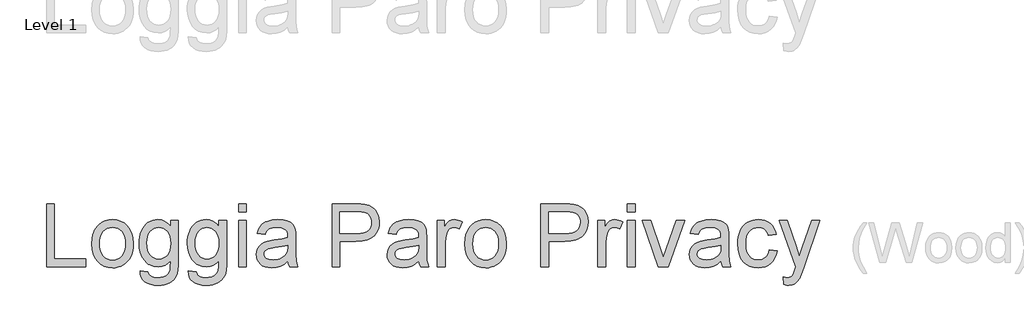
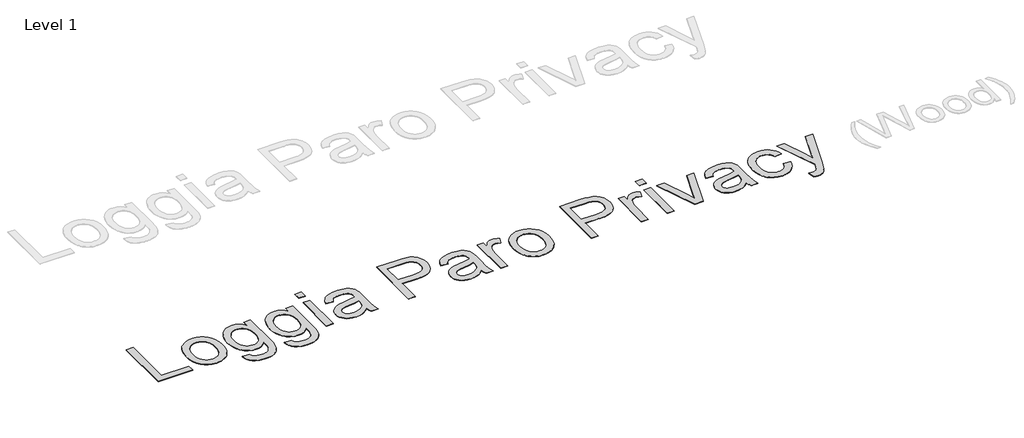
# One storey, part 28 of 69: 1 proxy.
"""IFC4 building model written with IfcOpenShell, lengths in millimetres."""

import ifcopenshell
import ifcopenshell.guid

model = None  # the IFC model being written
_history = None  # IfcOwnerHistory: only IFC2X3 demands one
_inside = {}  # id of a spatial element -> (the spatial element, [elements in it])
_under = {}  # id of a project, library or spatial element -> (it, [spatial elements below it])
_declared = {}  # id of a project -> (the project, [libraries it declares])
_typed = {}  # id of a type object -> (the type object, [elements of that type])
_made_of = {}  # id of a material, layer set ... -> (it, [elements and type objects made of it])


def new_model(schema):
    """Start an empty IFC model of exactly this schema.

    Asked for "IFC4X3", IfcOpenShell would pick the latest addendum, in which some entities
    have other attributes; the version numbers below select the first issue.
    IFC2X3 requires an IfcOwnerHistory on every rooted entity: one is made here for all.
    """
    global model, _history
    if schema == "IFC4X3":
        model = ifcopenshell.file(schema_version=(4, 3, 0, 0))
    else:
        model = ifcopenshell.file(schema=schema)
    _inside.clear()
    _under.clear()
    _declared.clear()
    _typed.clear()
    _made_of.clear()
    _history = None
    if model.schema == "IFC2X3":
        org = make("IfcOrganization", Name="unknown")
        user = make(
            "IfcPersonAndOrganization",
            ThePerson=make("IfcPerson", FamilyName="unknown"),
            TheOrganization=org,
        )
        app = make(
            "IfcApplication",
            ApplicationDeveloper=org,
            Version="unknown",
            ApplicationFullName="unknown",
            ApplicationIdentifier="unknown",
        )
        _history = make(
            "IfcOwnerHistory",
            OwningUser=user,
            OwningApplication=app,
            ChangeAction="ADDED",
            CreationDate=0,
        )
    return model


def make(cls, **values):
    """One entity of the class cls with the attributes given. An attribute that is None is left unset."""
    return model.create_entity(
        cls, **{name: value for name, value in values.items() if value is not None}
    )


def rooted(cls, **values):
    """An entity with a GlobalId (a new one), such as an element, a storey or a relation."""
    return make(cls, GlobalId=ifcopenshell.guid.new(), OwnerHistory=_history, **values)


def si_unit(unit_type, name, prefix=None):
    """IfcSIUnit, for example si_unit("LENGTHUNIT", "METRE", prefix="MILLI")."""
    return make("IfcSIUnit", UnitType=unit_type, Prefix=prefix, Name=name)


def assignment(units):
    """IfcUnitAssignment: the units of a project."""
    return None if units is None else make("IfcUnitAssignment", Units=units)


def point(xyz):
    """IfcCartesianPoint."""
    return None if xyz is None else make("IfcCartesianPoint", Coordinates=xyz)


def direction(xyz):
    """IfcDirection."""
    return None if xyz is None else make("IfcDirection", DirectionRatios=xyz)


def frame(location, z_axis=None, x_axis=None):
    """IfcAxis2Placement3D, a coordinate frame: its origin and axes. An axis left out is left unset."""
    return make(
        "IfcAxis2Placement3D",
        Location=point(location),
        Axis=direction(z_axis),
        RefDirection=direction(x_axis),
    )


def origin():
    """The frame at (0, 0, 0) with its axes left unset."""
    return frame((0.0, 0.0, 0.0))


def origin_with_axes():
    """The frame at (0, 0, 0) with the z axis (0, 0, 1) and the x axis (1, 0, 0) written out."""
    return frame((0.0, 0.0, 0.0), z_axis=(0.0, 0.0, 1.0), x_axis=(1.0, 0.0, 0.0))


def place(relative_to, where):
    """IfcLocalPlacement: puts the frame where relative to a parent placement (None: the world)."""
    return make(
        "IfcLocalPlacement", PlacementRelTo=relative_to, RelativePlacement=where
    )


def context(
    kind, dimensions, precision=None, world=None, true_north=None, identifier=None
):
    """IfcGeometricRepresentationContext, for example the 3D "Model" context."""
    return make(
        "IfcGeometricRepresentationContext",
        ContextIdentifier=identifier,
        ContextType=kind,
        CoordinateSpaceDimension=dimensions,
        Precision=precision,
        WorldCoordinateSystem=world,
        TrueNorth=true_north,
    )


def project(units=None, contexts=None):
    """IfcProject with its units and contexts."""
    return rooted(
        "IfcProject",
        Name="project",
        RepresentationContexts=contexts,
        UnitsInContext=assignment(units),
    )


def spatial(cls, under=None, at=None, **own):
    """A site, building, storey or space (cls), placed at a placement, below another one or the project."""
    s = rooted(cls, ObjectPlacement=at, **own)
    if under is not None:
        _under.setdefault(under.id(), (under, []))[1].append(s)
    return s


def polyline(points):
    """IfcPolyline through the points."""
    return make("IfcPolyline", Points=[point(p) for p in points])


def outline(outer, holes=None, kind="AREA"):
    """IfcArbitraryClosedProfileDef: a profile drawn as a closed curve; with holes, ...WithVoids."""
    if holes is None:
        return make("IfcArbitraryClosedProfileDef", ProfileType=kind, OuterCurve=outer)
    return make(
        "IfcArbitraryProfileDefWithVoids",
        ProfileType=kind,
        OuterCurve=outer,
        InnerCurves=holes,
    )


def extrude(swept, where, along, depth):
    """IfcExtrudedAreaSolid: the profile swept, set in the frame where, extruded along a direction by depth."""
    return make(
        "IfcExtrudedAreaSolid",
        SweptArea=swept,
        Position=where,
        ExtrudedDirection=direction(along),
        Depth=depth,
    )


def shape(context_of_items, identifier, shape_type, items):
    """IfcShapeRepresentation: the items that make up one representation, for example the "Body"."""
    return make(
        "IfcShapeRepresentation",
        ContextOfItems=context_of_items,
        RepresentationIdentifier=identifier,
        RepresentationType=shape_type,
        Items=items,
    )


def made_of(thing, what):
    """Note that an element or type object is made of a material, layer set ...; save() writes the relation."""
    if what is not None:
        _made_of.setdefault(what.id(), (what, []))[1].append(thing)
    return thing


def element(
    cls,
    number,
    at=None,
    inside=None,
    cuts=None,
    type_object=None,
    material=None,
    context=None,
    identifier="Body",
    shape_type=None,
    held_by="IfcProductDefinitionShape",
    body=None,
    shapes=None,
    **own,
):
    """One element of the class cls, such as IfcWall. Its Tag is "e" and its number.

    at: its placement. inside: the storey or other place that contains it. cuts: it is an
    opening in that element (IfcRelVoidsElement). A single representation is given by context,
    identifier, shape_type and body (its items); several are given by shapes. held_by: the class
    of the entity that holds the representations. save() writes the other relations.
    """
    e = rooted(cls, Tag="e%d" % number, ObjectPlacement=at, **own)
    if body is not None:
        shapes = [shape(context, identifier, shape_type, body)]
    if shapes is not None:
        e.Representation = make(held_by, Representations=shapes)
    if inside is not None:
        _inside.setdefault(inside.id(), (inside, []))[1].append(e)
    if cuts is not None:
        rooted(
            "IfcRelVoidsElement", RelatingBuildingElement=cuts, RelatedOpeningElement=e
        )
    if type_object is not None:
        _typed.setdefault(type_object.id(), (type_object, []))[1].append(e)
    return made_of(e, material)


def aggregate(whole, parts):
    """IfcRelAggregates: a whole, such as a stair, and the parts it consists of."""
    return rooted("IfcRelAggregates", RelatingObject=whole, RelatedObjects=parts)


def save(model, path):
    """Write the relations noted so far, then the file.

    IfcRelAggregates (storeys below a building ...), IfcRelContainedInSpatialStructure (elements
    in a storey), IfcRelDefinesByType, IfcRelAssociatesMaterial and IfcRelDeclares: one each for
    every whole, place, type object, material and project.
    """
    for whole, parts in _under.values():
        aggregate(whole, parts)
    for where, things in _inside.values():
        rooted(
            "IfcRelContainedInSpatialStructure",
            RelatedElements=things,
            RelatingStructure=where,
        )
    for kind, things in _typed.values():
        rooted("IfcRelDefinesByType", RelatedObjects=things, RelatingType=kind)
    for what, things in _made_of.values():
        rooted("IfcRelAssociatesMaterial", RelatedObjects=things, RelatingMaterial=what)
    for by, libraries in _declared.values():
        rooted("IfcRelDeclares", RelatingContext=by, RelatedDefinitions=libraries)
    model.write(path)


model = new_model("IFC4")

# Units and contexts
model_context = context("Model", 3, world=origin())
ifc_project = project(units=[si_unit("LENGTHUNIT", "METRE", prefix="MILLI")], contexts=[model_context])

# Site, building, storey
site = spatial("IfcSite", under=ifc_project)
building = spatial("IfcBuilding", under=site)
storey = spatial("IfcBuildingStorey", under=building, Name="Level 1", Elevation=0.0)

# Proxy
placement = place(None, origin())
element("IfcBuildingElementProxy", 1, Name="800mm Arial", ObjectType="800mm Arial", at=placement, inside=storey, context=model_context, shape_type="SweptSolid", body=[
    extrude(outline(polyline([(193965.6331768, -27327.2636858), (193965.6331768, -26527.8749875), (194065.556764, -26527.8749875), (194065.556764, -27227.3400985), (194465.2511132, -27227.3400985), (194465.2511132, -27327.2636858), (193965.6331768, -27327.2636858)])), origin_with_axes(), (0.0, 0.0, 1.0), 5.0),
    extrude(outline(polyline([(194540.1938037, -27033.7381481), (194545.5973864, -26957.709862), (194552.3518647, -26923.6386267), (194561.8081343, -26892.1959964), (194573.9661953, -26863.3819712), (194588.8260477, -26837.1965512), (194606.3876913, -26813.6397363), (194626.6511263, -26792.7115264), (194664.7323567, -26764.2786795), (194706.7656431, -26743.9695031), (194752.7509853, -26731.7839973), (194802.6883836, -26727.722162), (194857.8159047, -26732.6683308), (194907.6618201, -26747.5068372), (194952.22613, -26772.2376811), (194991.5088342, -26806.8608625), (195023.5704979, -26850.205402), (195046.4716863, -26901.10032), (195060.2123993, -26959.5456164), (195064.792637, -27025.5412914), (195062.7678182, -27079.0282213), (195056.6933618, -27126.4894857), (195046.5692679, -27167.9250846), (195032.3955364, -27203.335018), (195014.349034, -27233.9207596), (194992.6066275, -27260.8837832), (194967.1683168, -27284.2240889), (194938.0341019, -27303.9416767), (194906.3383693, -27319.6096268), (194873.2155054, -27330.8010198), (194838.6655101, -27337.5158556), (194802.6883836, -27339.7541342), (194746.7558141, -27334.826262), (194696.4463859, -27320.0426453), (194651.760099, -27295.4032842), (194612.6969535, -27260.9081786), (194580.9768254, -27217.1428184), (194558.3195911, -27164.6926932), (194544.7252505, -27103.5578031), (194540.1938037, -27033.7381481)]), holes=[polyline([(194640.117391, -27033.5429849), (194643.0082467, -27082.0105598), (194651.6808139, -27123.9767588), (194666.1350926, -27159.4415818), (194686.3710828, -27188.4050288), (194710.9860485, -27210.903693), (194738.5772539, -27226.9741674), (194769.1446989, -27236.616452), (194802.6883836, -27239.8305469), (194836.0613004, -27236.5981555), (194866.5067684, -27226.9009812), (194894.0247876, -27210.739024), (194918.6153579, -27188.112284), (194938.8513481, -27158.8621909), (194953.3056267, -27122.8301747), (194961.9781939, -27080.0162353), (194964.8690497, -27030.4203728), (194961.9598974, -26983.4897084), (194953.2324405, -26942.6213028), (194938.6866791, -26907.8151558), (194918.322613, -26879.0712674), (194893.6405599, -26856.5726032), (194866.1408373, -26840.5021288), (194835.8234452, -26830.8598442), (194802.6883836, -26827.6457493), (194769.1446989, -26830.8476465), (194738.5772539, -26840.453338), (194710.9860485, -26856.4628239), (194686.3710828, -26878.8761041), (194666.1350926, -26907.7541672), (194651.6808139, -26943.1580017), (194643.0082467, -26985.0876076), (194640.117391, -27033.5429849)])]), origin_with_axes(), (0.0, 0.0, 1.0), 5.0),
    extrude(outline(polyline([(195152.2257759, -27377.2254794), (195252.1493631, -27389.7159279), (195256.3697686, -27406.5487587), (195263.1760871, -27420.9420489), (195272.5683189, -27432.8957983), (195284.5464637, -27442.4100071), (195303.9286146, -27452.1437745), (195326.5553547, -27459.0964655), (195381.5426022, -27464.6586183), (195412.7443278, -27463.0851146), (195440.1891607, -27458.3646033), (195463.877101, -27450.4970845), (195483.8081485, -27439.4825582), (195500.3970253, -27425.625967), (195514.0584533, -27409.2322535), (195524.7924324, -27390.3014176), (195532.5989626, -27368.8334594), (195538.014743, -27325.8487522), (195539.4296766, -27252.3209953), (195506.1787368, -27285.1084224), (195469.0733227, -27308.5280132), (195428.1134342, -27322.5797676), (195383.2990715, -27327.2636858), (195328.5130861, -27321.8113123), (195280.2772675, -27305.4541919), (195258.6156707, -27293.1863516), (195238.5916157, -27278.1923245), (195203.4561307, -27240.0257102), (195175.5782793, -27194.2355311), (195155.6655283, -27144.1029696), (195143.7178776, -27089.6280257), (195139.7353274, -27030.8106993), (195141.522291, -26989.6617464), (195146.8831817, -26950.1350881), (195155.8179995, -26912.2307244), (195168.3267445, -26875.9486553), (195184.2203522, -26842.4964534), (195203.3097582, -26813.0816913), (195225.5949626, -26787.7043691), (195251.0759652, -26766.3644868), (195279.3441432, -26749.4584697), (195309.9908733, -26737.3827432), (195343.0161556, -26730.1373073), (195378.4199901, -26727.722162), (195425.1493923, -26733.1867332), (195467.5608074, -26749.5804468), (195505.6542356, -26776.9033027), (195539.4296766, -26815.1553009), (195539.4296766, -26740.2126104), (195639.3532639, -26740.2126104), (195639.3532639, -27247.0515874), (195637.6455854, -27310.5589308), (195632.5225499, -27364.076355), (195623.9841575, -27407.6038601), (195612.030408, -27441.1414459), (195596.3746555, -27468.1898535), (195576.730254, -27492.2498237), (195553.0972034, -27513.3213565), (195525.4755038, -27531.404452), (195494.1457023, -27545.9197192), (195459.3883461, -27556.2877672), (195421.2034352, -27562.508596), (195379.5909696, -27564.5822056), (195330.6354865, -27561.6608556), (195286.6200733, -27552.8968056), (195247.5447301, -27538.2900557), (195213.4094567, -27517.8406057), (195185.8365479, -27491.5240603), (195166.4482982, -27459.3160242), (195155.2447075, -27421.2164972), (195152.2257759, -27377.2254794)]), holes=[polyline([(195239.6589147, -27023.9799853), (195242.324113, -27073.3867834), (195250.3197076, -27115.6335296), (195263.6456987, -27150.7202238), (195282.3020863, -27178.646866), (195304.983716, -27199.9501552), (195330.3854336, -27215.1667904), (195358.5072391, -27224.2967715), (195389.3491324, -27227.3400985), (195419.8860832, -27224.315068), (195447.8737139, -27215.2399766), (195473.3120246, -27200.1148242), (195496.2010153, -27178.9396109), (195515.1135546, -27151.287417), (195528.6225113, -27116.7313229), (195536.7278853, -27075.2713286), (195539.4296766, -27026.9074341), (195536.6486002, -26980.5622596), (195528.305371, -26940.2793437), (195514.399989, -26906.0586865), (195494.9324541, -26877.9002879), (195471.5494565, -26855.9139273), (195445.897686, -26840.209384), (195417.9771426, -26830.786658), (195387.7878264, -26827.6457493), (195358.1047148, -26830.7378672), (195330.7269693, -26840.0142207), (195305.6545897, -26855.4748099), (195282.887576, -26877.1196348), (195263.9750367, -26904.8511138), (195250.4660801, -26938.5716652), (195242.3607061, -26978.281289), (195239.6589147, -27023.9799853)])]), origin_with_axes(), (0.0, 0.0, 1.0), 5.0),
    extrude(outline(polyline([(195764.257748, -27377.2254794), (195864.1813353, -27389.7159279), (195868.4017407, -27406.5487587), (195875.2080593, -27420.9420489), (195884.600291, -27432.8957983), (195896.5784359, -27442.4100071), (195915.9605868, -27452.1437745), (195938.5873268, -27459.0964655), (195993.5745743, -27464.6586183), (196024.7763, -27463.0851146), (196052.2211329, -27458.3646033), (196075.9090731, -27450.4970845), (196095.8401207, -27439.4825582), (196112.4289975, -27425.625967), (196126.0904254, -27409.2322535), (196136.8244046, -27390.3014176), (196144.6309348, -27368.8334594), (196150.0467152, -27325.8487522), (196151.4616488, -27252.3209953), (196118.210709, -27285.1084224), (196081.1052948, -27308.5280132), (196040.1454064, -27322.5797676), (195995.3310436, -27327.2636858), (195940.5450582, -27321.8113123), (195892.3092397, -27305.4541919), (195870.6476429, -27293.1863516), (195850.6235878, -27278.1923245), (195815.4881028, -27240.0257102), (195787.6102514, -27194.2355311), (195767.6975004, -27144.1029696), (195755.7498498, -27089.6280257), (195751.7672996, -27030.8106993), (195753.5542632, -26989.6617464), (195758.9151539, -26950.1350881), (195767.8499717, -26912.2307244), (195780.3587167, -26875.9486553), (195796.2523244, -26842.4964534), (195815.3417304, -26813.0816913), (195837.6269347, -26787.7043691), (195863.1079374, -26766.3644868), (195891.3761153, -26749.4584697), (195922.0228454, -26737.3827432), (195955.0481277, -26730.1373073), (195990.4519622, -26727.722162), (196037.1813644, -26733.1867332), (196079.5927796, -26749.5804468), (196117.6862077, -26776.9033027), (196151.4616488, -26815.1553009), (196151.4616488, -26740.2126104), (196251.3852361, -26740.2126104), (196251.3852361, -27247.0515874), (196249.6775576, -27310.5589308), (196244.5545221, -27364.076355), (196236.0161296, -27407.6038601), (196224.0623802, -27441.1414459), (196208.4066277, -27468.1898535), (196188.7622262, -27492.2498237), (196165.1291756, -27513.3213565), (196137.5074759, -27531.404452), (196106.1776744, -27545.9197192), (196071.4203182, -27556.2877672), (196033.2354073, -27562.508596), (195991.6229418, -27564.5822056), (195942.6674587, -27561.6608556), (195898.6520455, -27552.8968056), (195859.5767022, -27538.2900557), (195825.4414289, -27517.8406057), (195797.8685201, -27491.5240603), (195778.4802703, -27459.3160242), (195767.2766796, -27421.2164972), (195764.257748, -27377.2254794)]), holes=[polyline([(195851.6908869, -27023.9799853), (195854.3560851, -27073.3867834), (195862.3516798, -27115.6335296), (195875.6776709, -27150.7202238), (195894.3340584, -27178.646866), (195917.0156881, -27199.9501552), (195942.4174057, -27215.1667904), (195970.5392112, -27224.2967715), (196001.3811046, -27227.3400985), (196031.9180554, -27224.315068), (196059.9056861, -27215.2399766), (196085.3439968, -27200.1148242), (196108.2329875, -27178.9396109), (196127.1455268, -27151.287417), (196140.6544835, -27116.7313229), (196148.7598575, -27075.2713286), (196151.4616488, -27026.9074341), (196148.6805724, -26980.5622596), (196140.3373432, -26940.2793437), (196126.4319611, -26906.0586865), (196106.9644263, -26877.9002879), (196083.5814287, -26855.9139273), (196057.9296581, -26840.209384), (196030.0091148, -26830.786658), (195999.8197985, -26827.6457493), (195970.136687, -26830.7378672), (195942.7589414, -26840.0142207), (195917.6865618, -26855.4748099), (195894.9195482, -26877.1196348), (195876.0070089, -26904.8511138), (195862.4980522, -26938.5716652), (195854.3926782, -26978.281289), (195851.6908869, -27023.9799853)])]), origin_with_axes(), (0.0, 0.0, 1.0), 5.0),
    extrude(outline(polyline([(196401.270617, -26627.7985747), (196401.270617, -26527.8749875), (196501.1942043, -26527.8749875), (196501.1942043, -26627.7985747), (196401.270617, -26627.7985747)])), origin_with_axes(), (0.0, 0.0, 1.0), 5.0),
    extrude(outline(polyline([(196401.270617, -27327.2636858), (196401.270617, -26740.2126104), (196501.1942043, -26740.2126104), (196501.1942043, -27327.2636858), (196401.270617, -27327.2636858)])), origin_with_axes(), (0.0, 0.0, 1.0), 5.0),
    extrude(outline(polyline([(197025.7930376, -27252.3209953), (196978.051226, -27293.2564884), (196953.6497201, -27308.4182338), (196928.8944808, -27320.0426453), (196877.2006132, -27334.826262), (196821.8474346, -27339.7541342), (196777.356311, -27336.7900922), (196738.3419563, -27327.8979664), (196704.8043704, -27313.0777566), (196676.7435535, -27292.3294629), (196654.586425, -27266.9704373), (196638.7599047, -27238.3180317), (196629.2639925, -27206.3722461), (196626.0986884, -27171.1330806), (196630.8801882, -27129.7096795), (196645.2246876, -27092.0919618), (196667.3513218, -27059.8900245), (196695.4792261, -27034.7139644), (196728.5350026, -27015.6855469), (196765.4452535, -27001.9265373), (196851.9025761, -26986.8989666), (196954.0705409, -26971.0907428), (197025.2075478, -26952.5502334), (197025.7930376, -26930.3016222), (197024.0731614, -26906.076983), (197018.9135328, -26885.7068181), (197010.3141518, -26869.1911275), (196998.2750184, -26856.5299113), (196977.4657362, -26843.8930904), (196952.1189083, -26834.8667898), (196922.2345347, -26829.4510095), (196887.8126153, -26827.6457493), (196828.2878221, -26832.4516445), (196805.2585578, -26838.4590135), (196786.7180485, -26846.8693301), (196771.4831168, -26858.3412703), (196758.3705855, -26873.53351), (196747.3804546, -26892.4460493), (196738.5127241, -26915.0788882), (196638.5891368, -26902.5884398), (196655.9342713, -26847.942728), (196667.8087356, -26825.0110454), (196681.8177981, -26805.0068116), (196698.5652451, -26787.5275024), (196718.6548628, -26772.1705937), (196742.0866513, -26758.9360854), (196768.8606105, -26747.8239775), (196830.2638501, -26732.7476159), (196900.6933902, -26727.722162), (196968.2442724, -26732.1621261), (197021.7921908, -26745.4820184), (197062.1665895, -26765.5106476), (197090.1969122, -26790.0768225), (197108.7862124, -26820.4491042), (197120.8375435, -26857.8960541), (197124.4968545, -26892.4399505), (197125.7166249, -26945.329193), (197125.7166249, -27069.6481873), (197126.9851861, -27177.9393992), (197130.7908696, -27243.2459039), (197138.3046549, -27286.1574249), (197150.6975217, -27327.2636858), (197050.7739344, -27327.2636858), (197034.7705474, -27292.5246261), (197025.7930376, -27252.3209953)]), holes=[polyline([(197025.7930376, -27052.4738207), (196958.6568774, -27069.1114883), (196864.5881878, -27083.114452), (196812.7479478, -27090.7746098), (196778.6187733, -27099.3130023), (196756.2481851, -27110.3885171), (196739.6837037, -27125.6600419), (196729.4376327, -27143.9565972), (196726.0222757, -27164.1072034), (196727.8824255, -27179.63488), (196733.4628749, -27193.8208092), (196742.7636238, -27206.664991), (196755.7846723, -27218.1674254), (196772.4040434, -27227.6450411), (196792.4997599, -27234.4147665), (196843.1202296, -27239.8305469), (196896.7901251, -27233.8536722), (196921.2831138, -27226.3825788), (196944.2147964, -27215.923048), (196982.6619579, -27189.5028222), (197009.3993241, -27158.0571425), (197021.2554919, -27125.6600419), (197025.2075478, -27080.7724929), (197025.7930376, -27052.4738207)])]), origin_with_axes(), (0.0, 0.0, 1.0), 5.0),
    extrude(outline(polyline([(197587.8632161, -27327.2636858), (197587.8632161, -26527.8749875), (197884.1210394, -26527.8749875), (197953.1112505, -26529.7778292), (198003.5609523, -26535.4863545), (198056.8161259, -26549.7088768), (198100.6546724, -26572.8601181), (198119.2622691, -26588.046259), (198135.9548264, -26605.9890808), (198163.5948226, -26650.1447676), (198174.0116614, -26675.5830783), (198181.4522606, -26702.2289617), (198187.4047399, -26759.1434463), (198183.3855966, -26808.2148076), (198171.3281666, -26853.3585084), (198151.2324501, -26894.5745486), (198123.0984469, -26931.8629283), (198105.4041532, -26948.4213108), (198084.4744187, -26962.771909), (198060.3092433, -26974.9147229), (198032.908627, -26984.8497524), (197968.4010719, -26998.0964584), (197890.9517534, -27002.5120271), (197687.7868034, -27002.5120271), (197687.7868034, -27327.2636858), (197587.8632161, -27327.2636858)]), holes=[polyline([(197687.7868034, -26902.5884398), (197896.806651, -26902.5884398), (197944.8656029, -26900.2952715), (197985.4107695, -26893.4157667), (198018.4421506, -26881.9499254), (198043.9597464, -26865.8977476), (198063.0003616, -26845.6861528), (198076.600801, -26821.7420608), (198084.7610647, -26794.0654715), (198087.4811526, -26762.6563849), (198085.8771546, -26739.3343758), (198081.0651605, -26717.768836), (198073.0451705, -26697.9597654), (198061.8171844, -26679.9071642), (198047.9788897, -26664.1965221), (198032.127974, -26651.4133288), (198014.2644372, -26641.5575843), (197994.3882793, -26634.6292887), (197955.8435361, -26629.5062532), (197894.464692, -26627.7985747), (197687.7868034, -26627.7985747), (197687.7868034, -26902.5884398)])]), origin_with_axes(), (0.0, 0.0, 1.0), 5.0),
    extrude(outline(polyline([(198687.0226763, -27252.3209953), (198639.2808647, -27293.2564884), (198614.8793588, -27308.4182338), (198590.1241195, -27320.0426453), (198538.430252, -27334.826262), (198483.0770734, -27339.7541342), (198438.5859498, -27336.7900922), (198399.571595, -27327.8979664), (198366.0340092, -27313.0777566), (198337.9731922, -27292.3294629), (198315.8160638, -27266.9704373), (198299.9895434, -27238.3180317), (198290.4936312, -27206.3722461), (198287.3283272, -27171.1330806), (198292.1098269, -27129.7096795), (198306.4543263, -27092.0919618), (198328.5809605, -27059.8900245), (198356.7088648, -27034.7139644), (198389.7646414, -27015.6855469), (198426.6748923, -27001.9265373), (198513.1322149, -26986.8989666), (198615.3001796, -26971.0907428), (198686.4371866, -26952.5502334), (198687.0226763, -26930.3016222), (198685.3028001, -26906.076983), (198680.1431715, -26885.7068181), (198671.5437906, -26869.1911275), (198659.5046572, -26856.5299113), (198638.695375, -26843.8930904), (198613.348547, -26834.8667898), (198583.4641734, -26829.4510095), (198549.042254, -26827.6457493), (198489.5174608, -26832.4516445), (198466.4881966, -26838.4590135), (198447.9476872, -26846.8693301), (198432.7127555, -26858.3412703), (198419.6002242, -26873.53351), (198408.6100933, -26892.4460493), (198399.7423629, -26915.0788882), (198299.8187756, -26902.5884398), (198317.16391, -26847.942728), (198329.0383744, -26825.0110454), (198343.0474369, -26805.0068116), (198359.7948838, -26787.5275024), (198379.8845015, -26772.1705937), (198403.31629, -26758.9360854), (198430.0902492, -26747.8239775), (198491.4934888, -26732.7476159), (198561.923029, -26727.722162), (198629.4739111, -26732.1621261), (198683.0218296, -26745.4820184), (198723.3962283, -26765.5106476), (198751.426551, -26790.0768225), (198770.0158511, -26820.4491042), (198782.0671822, -26857.8960541), (198785.7264933, -26892.4399505), (198786.9462636, -26945.329193), (198786.9462636, -27069.6481873), (198788.2148248, -27177.9393992), (198792.0205083, -27243.2459039), (198799.5342937, -27286.1574249), (198811.9271605, -27327.2636858), (198712.0035732, -27327.2636858), (198696.0001861, -27292.5246261), (198687.0226763, -27252.3209953)]), holes=[polyline([(198687.0226763, -27052.4738207), (198619.8865161, -27069.1114883), (198525.8178265, -27083.114452), (198473.9775865, -27090.7746098), (198439.8484121, -27099.3130023), (198417.4778238, -27110.3885171), (198400.9133424, -27125.6600419), (198390.6672714, -27143.9565972), (198387.2519145, -27164.1072034), (198389.1120642, -27179.63488), (198394.6925136, -27193.8208092), (198403.9932626, -27206.664991), (198417.0143111, -27218.1674254), (198433.6336821, -27227.6450411), (198453.7293987, -27234.4147665), (198504.3498683, -27239.8305469), (198558.0197638, -27233.8536722), (198582.5127525, -27226.3825788), (198605.4444351, -27215.923048), (198643.8915967, -27189.5028222), (198670.6289628, -27158.0571425), (198682.4851306, -27125.6600419), (198686.4371866, -27080.7724929), (198687.0226763, -27052.4738207)])]), origin_with_axes(), (0.0, 0.0, 1.0), 5.0),
    extrude(outline(polyline([(198924.3411962, -27327.2636858), (198924.3411962, -26740.2126104), (199011.774335, -26740.2126104), (199011.774335, -26827.0602596), (199044.073854, -26776.7081394), (199059.2721926, -26759.2898188), (199073.8362506, -26747.0433244), (199103.6962288, -26732.5524526), (199136.2884926, -26727.722162), (199161.0742262, -26729.6493992), (199186.055123, -26735.4311107), (199211.2311831, -26745.0672965), (199236.6024064, -26758.5579566), (199203.2294896, -26848.1378913), (199168.1001034, -26832.7687848), (199132.9707173, -26827.6457493), (199103.1351345, -26832.5736216), (199076.4709545, -26847.3572382), (199054.9298101, -26870.8744106), (199040.4633337, -26902.00295), (199028.314421, -26957.8196414), (199024.2647835, -27018.7105774), (199024.2647835, -27327.2636858), (198924.3411962, -27327.2636858)])), origin_with_axes(), (0.0, 0.0, 1.0), 5.0),
    extrude(outline(polyline([(199274.0737517, -27033.7381481), (199279.4773343, -26957.709862), (199286.2318127, -26923.6386267), (199295.6880823, -26892.1959964), (199307.8461433, -26863.3819712), (199322.7059956, -26837.1965512), (199340.2676393, -26813.6397363), (199360.5310743, -26792.7115264), (199398.6123047, -26764.2786795), (199440.645591, -26743.9695031), (199486.6309333, -26731.7839973), (199536.5683316, -26727.722162), (199591.6958527, -26732.6683308), (199641.5417681, -26747.5068372), (199686.106078, -26772.2376811), (199725.3887822, -26806.8608625), (199757.4504459, -26850.205402), (199780.3516343, -26901.10032), (199794.0923473, -26959.5456164), (199798.672585, -27025.5412914), (199796.6477662, -27079.0282213), (199790.5733098, -27126.4894857), (199780.4492159, -27167.9250846), (199766.2754844, -27203.335018), (199748.228982, -27233.9207596), (199726.4865755, -27260.8837832), (199701.0482648, -27284.2240889), (199671.9140499, -27303.9416767), (199640.2183173, -27319.6096268), (199607.0954534, -27330.8010198), (199572.5454581, -27337.5158556), (199536.5683316, -27339.7541342), (199480.6357621, -27334.826262), (199430.3263339, -27320.0426453), (199385.640047, -27295.4032842), (199346.5769014, -27260.9081786), (199314.8567734, -27217.1428184), (199292.1995391, -27164.6926932), (199278.6051985, -27103.5578031), (199274.0737517, -27033.7381481)]), holes=[polyline([(199373.997339, -27033.5429849), (199376.8881947, -27082.0105598), (199385.5607619, -27123.9767588), (199400.0150406, -27159.4415818), (199420.2510307, -27188.4050288), (199444.8659965, -27210.903693), (199472.4572018, -27226.9741674), (199503.0246469, -27236.616452), (199536.5683316, -27239.8305469), (199569.9412484, -27236.5981555), (199600.3867164, -27226.9009812), (199627.9047356, -27210.739024), (199652.4953059, -27188.112284), (199672.7312961, -27158.8621909), (199687.1855747, -27122.8301747), (199695.8581419, -27080.0162353), (199698.7489977, -27030.4203728), (199695.8398454, -26983.4897084), (199687.1123885, -26942.6213028), (199672.5666271, -26907.8151558), (199652.202561, -26879.0712674), (199627.5205079, -26856.5726032), (199600.0207853, -26840.5021288), (199569.7033932, -26830.8598442), (199536.5683316, -26827.6457493), (199503.0246469, -26830.8476465), (199472.4572018, -26840.453338), (199444.8659965, -26856.4628239), (199420.2510307, -26878.8761041), (199400.0150406, -26907.7541672), (199385.5607619, -26943.1580017), (199376.8881947, -26985.0876076), (199373.997339, -27033.5429849)])]), origin_with_axes(), (0.0, 0.0, 1.0), 5.0),
    extrude(outline(polyline([(200235.8382794, -27327.2636858), (200235.8382794, -26527.8749875), (200532.0961026, -26527.8749875), (200601.0863138, -26529.7778292), (200651.5360156, -26535.4863545), (200704.7911892, -26549.7088768), (200748.6297356, -26572.8601181), (200767.2373324, -26588.046259), (200783.9298897, -26605.9890808), (200811.5698858, -26650.1447676), (200821.9867247, -26675.5830783), (200829.4273238, -26702.2289617), (200835.3798031, -26759.1434463), (200831.3606598, -26808.2148076), (200819.3032299, -26853.3585084), (200799.2075133, -26894.5745486), (200771.0735101, -26931.8629283), (200753.3792165, -26948.4213108), (200732.4494819, -26962.771909), (200708.2843065, -26974.9147229), (200680.8836903, -26984.8497524), (200616.3761352, -26998.0964584), (200538.9268166, -27002.5120271), (200335.7618667, -27002.5120271), (200335.7618667, -27327.2636858), (200235.8382794, -27327.2636858)]), holes=[polyline([(200335.7618667, -26902.5884398), (200544.7817143, -26902.5884398), (200592.8406662, -26900.2952715), (200633.3858327, -26893.4157667), (200666.4172139, -26881.9499254), (200691.9348097, -26865.8977476), (200710.9754249, -26845.6861528), (200724.5758643, -26821.7420608), (200732.736128, -26794.0654715), (200735.4562158, -26762.6563849), (200733.8522178, -26739.3343758), (200729.0402238, -26717.768836), (200721.0202337, -26697.9597654), (200709.7922476, -26679.9071642), (200695.953953, -26664.1965221), (200680.1030372, -26651.4133288), (200662.2395004, -26641.5575843), (200642.3633425, -26634.6292887), (200603.8185994, -26629.5062532), (200542.4397552, -26627.7985747), (200335.7618667, -26627.7985747), (200335.7618667, -26902.5884398)])]), origin_with_axes(), (0.0, 0.0, 1.0), 5.0),
    extrude(outline(polyline([(200960.2842872, -27327.2636858), (200960.2842872, -26740.2126104), (201047.7174261, -26740.2126104), (201047.7174261, -26827.0602596), (201080.0169451, -26776.7081394), (201095.2152837, -26759.2898188), (201109.7793417, -26747.0433244), (201139.6393199, -26732.5524526), (201172.2315837, -26727.722162), (201197.0173173, -26729.6493992), (201221.9982141, -26735.4311107), (201247.1742742, -26745.0672965), (201272.5454975, -26758.5579566), (201239.1725807, -26848.1378913), (201204.0431945, -26832.7687848), (201168.9138084, -26827.6457493), (201139.0782255, -26832.5736216), (201112.4140456, -26847.3572382), (201090.8729012, -26870.8744106), (201076.4064248, -26902.00295), (201064.2575121, -26957.8196414), (201060.2078745, -27018.7105774), (201060.2078745, -27327.2636858), (200960.2842872, -27327.2636858)])), origin_with_axes(), (0.0, 0.0, 1.0), 5.0),
    extrude(outline(polyline([(201334.9977396, -27327.2636858), (201334.9977396, -26740.2126104), (201434.9213269, -26740.2126104), (201434.9213269, -27327.2636858), (201334.9977396, -27327.2636858)])), origin_with_axes(), (0.0, 0.0, 1.0), 5.0),
    extrude(outline(polyline([(201334.9977396, -26627.7985747), (201334.9977396, -26527.8749875), (201434.9213269, -26527.8749875), (201434.9213269, -26627.7985747), (201334.9977396, -26627.7985747)])), origin_with_axes(), (0.0, 0.0, 1.0), 5.0),
    extrude(outline(polyline([(201728.8371911, -27327.2636858), (201522.3544658, -26740.2126104), (201628.1329508, -26740.2126104), (201753.2325981, -27091.8967985), (201790.8991066, -27210.1657319), (201827.7849621, -27098.5323493), (201953.6652625, -26740.2126104), (202059.4437475, -26740.2126104), (201855.4981445, -27327.2636858), (201728.8371911, -27327.2636858)])), origin_with_axes(), (0.0, 0.0, 1.0), 5.0),
    extrude(outline(polyline([(202521.5903387, -27252.3209953), (202473.8485271, -27293.2564884), (202449.4470212, -27308.4182338), (202424.6917819, -27320.0426453), (202372.9979143, -27334.826262), (202317.6447357, -27339.7541342), (202273.1536121, -27336.7900922), (202234.1392574, -27327.8979664), (202200.6016715, -27313.0777566), (202172.5408546, -27292.3294629), (202150.3837261, -27266.9704373), (202134.5572058, -27238.3180317), (202125.0612936, -27206.3722461), (202121.8959895, -27171.1330806), (202126.6774893, -27129.7096795), (202141.0219887, -27092.0919618), (202163.1486229, -27059.8900245), (202191.2765272, -27034.7139644), (202224.3323037, -27015.6855469), (202261.2425546, -27001.9265373), (202347.6998772, -26986.8989666), (202449.867842, -26971.0907428), (202521.0048489, -26952.5502334), (202521.5903387, -26930.3016222), (202519.8704625, -26906.076983), (202514.7108339, -26885.7068181), (202506.1114529, -26869.1911275), (202494.0723195, -26856.5299113), (202473.2630373, -26843.8930904), (202447.9162094, -26834.8667898), (202418.0318358, -26829.4510095), (202383.6099164, -26827.6457493), (202324.0851232, -26832.4516445), (202301.0558589, -26838.4590135), (202282.5153496, -26846.8693301), (202267.2804179, -26858.3412703), (202254.1678866, -26873.53351), (202243.1777557, -26892.4460493), (202234.3100252, -26915.0788882), (202134.3864379, -26902.5884398), (202151.7315724, -26847.942728), (202163.6060367, -26825.0110454), (202177.6150992, -26805.0068116), (202194.3625462, -26787.5275024), (202214.4521639, -26772.1705937), (202237.8839524, -26758.9360854), (202264.6579116, -26747.8239775), (202326.0611512, -26732.7476159), (202396.4906913, -26727.722162), (202464.0415735, -26732.1621261), (202517.5894919, -26745.4820184), (202557.9638906, -26765.5106476), (202585.9942133, -26790.0768225), (202604.5835135, -26820.4491042), (202616.6348446, -26857.8960541), (202620.2941556, -26892.4399505), (202621.513926, -26945.329193), (202621.513926, -27069.6481873), (202622.7824872, -27177.9393992), (202626.5881707, -27243.2459039), (202634.101956, -27286.1574249), (202646.4948228, -27327.2636858), (202546.5712355, -27327.2636858), (202530.5678485, -27292.5246261), (202521.5903387, -27252.3209953)]), holes=[polyline([(202521.5903387, -27052.4738207), (202454.4541785, -27069.1114883), (202360.3854889, -27083.114452), (202308.5452489, -27090.7746098), (202274.4160744, -27099.3130023), (202252.0454862, -27110.3885171), (202235.4810048, -27125.6600419), (202225.2349338, -27143.9565972), (202221.8195768, -27164.1072034), (202223.6797266, -27179.63488), (202229.260176, -27193.8208092), (202238.5609249, -27206.664991), (202251.5819734, -27218.1674254), (202268.2013445, -27227.6450411), (202288.297061, -27234.4147665), (202338.9175307, -27239.8305469), (202392.5874262, -27233.8536722), (202417.0804149, -27226.3825788), (202440.0120975, -27215.923048), (202478.459259, -27189.5028222), (202505.1966252, -27158.0571425), (202517.052793, -27125.6600419), (202521.0048489, -27080.7724929), (202521.5903387, -27052.4738207)])]), origin_with_axes(), (0.0, 0.0, 1.0), 5.0),
    extrude(outline(polyline([(203133.6223109, -27114.9260628), (203233.5458982, -27127.4165112), (203222.6777443, -27174.5667342), (203205.6863433, -27216.2889791), (203182.5716951, -27252.583246), (203153.3337998, -27283.4495347), (203119.2046253, -27308.082797), (203081.4161398, -27325.6779843), (203039.9683432, -27336.2350967), (202994.8612355, -27339.7541342), (202938.8188867, -27334.8445585), (202888.570447, -27320.1158315), (202844.1159165, -27295.5679532), (202805.4552952, -27261.2009235), (202774.1620868, -27217.6612208), (202751.8097951, -27165.5953232), (202738.39842, -27105.003231), (202733.9279617, -27035.8849439), (202735.8369023, -26989.9422936), (202741.5637241, -26946.9636852), (202751.1084271, -26906.9491188), (202764.4710113, -26869.8985943), (202781.7429595, -26836.5561718), (202803.0157545, -26807.665911), (202828.2893962, -26783.2278119), (202857.5638846, -26763.2418747), (202889.515769, -26747.7020004), (202922.8215985, -26736.6020902), (202957.4813731, -26729.9421441), (202993.4950927, -26727.722162), (203037.8276462, -26730.7715879), (203077.9275966, -26739.9198656), (203113.7949438, -26755.166995), (203145.4296879, -26776.5129761), (203172.2951299, -26803.4699009), (203193.8545709, -26835.5498612), (203210.1080108, -26872.752857), (203221.0554497, -26915.0788882), (203121.1318625, -26927.5693366), (203113.331431, -26904.2290309), (203103.006075, -26883.9747442), (203090.1557943, -26866.8064765), (203074.7805891, -26852.7242278), (203057.2707856, -26841.7523935), (203038.0167106, -26833.9153689), (203017.018364, -26829.2131542), (202994.2757458, -26827.6457493), (202960.323438, -26830.7317683), (202929.7011033, -26839.9898253), (202902.4087417, -26855.4199203), (202878.4463531, -26877.0220532), (202858.9361263, -26905.29633), (202845.00025, -26940.7428564), (202836.6387242, -26983.3616326), (202833.851549, -27033.1526584), (202836.5777357, -27083.6938429), (202844.7562959, -27126.806626), (202858.3872296, -27162.4910077), (202877.4705368, -27190.7469879), (202900.9572149, -27212.221045), (202927.7982616, -27227.5596572), (202957.9936766, -27236.7628245), (202991.5434602, -27239.8305469), (203018.5796701, -27237.9155075), (203043.2861185, -27232.1703891), (203065.6628057, -27222.5951918), (203085.7097314, -27209.1899157), (203102.8658014, -27191.8081881), (203116.5699213, -27170.3036368), (203126.8220911, -27144.6762617), (203133.6223109, -27114.9260628)])), origin_with_axes(), (0.0, 0.0, 1.0), 5.0),
    extrude(outline(polyline([(203320.979037, -27552.0917572), (203308.4885886, -27455.8762718), (203335.7138629, -27462.4630317), (203359.2310353, -27464.6586183), (203385.9196106, -27461.9019373), (203406.6557066, -27453.6318943), (203422.8054661, -27440.4339791), (203435.7350318, -27422.8936814), (203463.0578877, -27349.3171338), (203470.864418, -27325.11689), (203258.526795, -26740.2126104), (203363.9149535, -26740.2126104), (203476.5241524, -27066.1352487), (203515.751967, -27196.504304), (203554.9797815, -27081.3579827), (203670.7115926, -26740.2126104), (203775.319098, -26740.2126104), (203570.9831685, -27341.3154403), (203540.6352822, -27421.2347938), (203517.8987628, -27471.6844956), (203490.7222793, -27513.30306), (203459.9352756, -27542.1384311), (203442.846293, -27551.9575825), (203424.1716089, -27558.971262), (203382.0651363, -27564.5822056), (203353.1321835, -27561.4595935), (203320.979037, -27552.0917572)])), origin_with_axes(), (0.0, 0.0, 1.0), 5.0),
])

save(model, "model.ifc")
